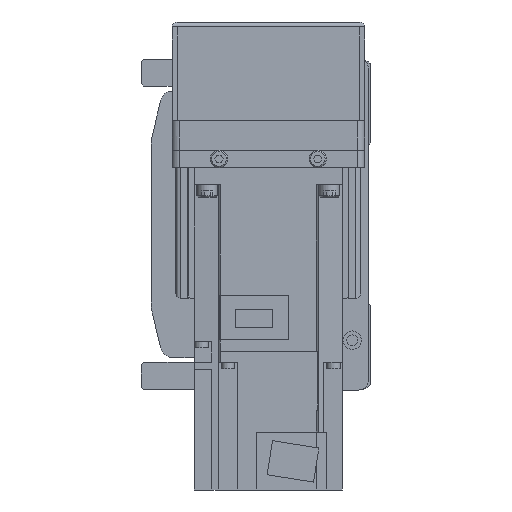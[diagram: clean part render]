
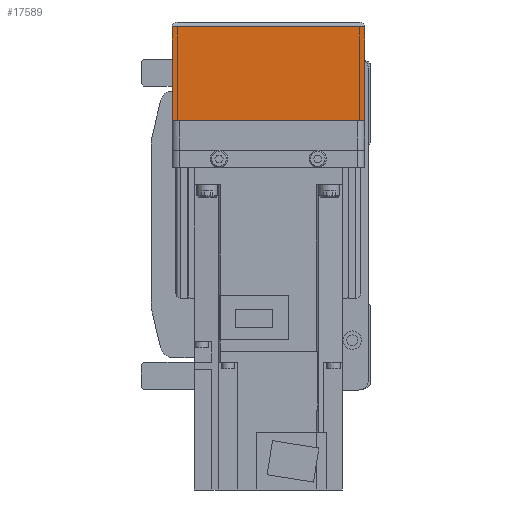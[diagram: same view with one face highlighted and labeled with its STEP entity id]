
A CAD part, left-side view. The second image highlights one B-rep face of the part: STEP entity #17589.
In plain terms, the highlighted planar face has unit normal (-1, 0, 0).
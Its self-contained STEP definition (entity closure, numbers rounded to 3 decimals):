
#2630=ORIENTED_EDGE('',*,*,#7083,.F.);
#2631=ORIENTED_EDGE('',*,*,#7084,.F.);
#2632=ORIENTED_EDGE('',*,*,#7085,.T.);
#2633=ORIENTED_EDGE('',*,*,#7086,.F.);
#7083=EDGE_CURVE('',#9408,#9399,#11225,.T.);
#7084=EDGE_CURVE('',#9425,#9408,#11226,.T.);
#7085=EDGE_CURVE('',#9425,#9426,#11227,.T.);
#7086=EDGE_CURVE('',#9399,#9426,#11228,.T.);
#9399=VERTEX_POINT('',#27014);
#9408=VERTEX_POINT('',#27032);
#9425=VERTEX_POINT('',#27080);
#9426=VERTEX_POINT('',#27082);
#11225=LINE('',#27078,#12855);
#11226=LINE('',#27079,#12856);
#11227=LINE('',#27081,#12857);
#11228=LINE('',#27083,#12858);
#12855=VECTOR('',#21673,1000.);
#12856=VECTOR('',#21674,1000.);
#12857=VECTOR('',#21675,1000.);
#12858=VECTOR('',#21676,1000.);
#14317=EDGE_LOOP('',(#2630,#2631,#2632,#2633));
#15667=FACE_BOUND('',#14317,.T.);
#16858=PLANE('',#18847);
#17589=ADVANCED_FACE('',(#15667),#16858,.F.);
#18847=AXIS2_PLACEMENT_3D('',#27077,#21671,#21672);
#21671=DIRECTION('',(1.,0.,0.));
#21672=DIRECTION('',(0.,0.,-1.));
#21673=DIRECTION('',(0.,-1.,0.));
#21674=DIRECTION('',(0.,0.,1.));
#21675=DIRECTION('',(0.,-1.,0.));
#21676=DIRECTION('',(0.,0.,-1.));
#27014=CARTESIAN_POINT('',(-158.,-39.,-12.1));
#27032=CARTESIAN_POINT('',(-158.,39.,-12.1));
#27077=CARTESIAN_POINT('',(-158.,36.,7.));
#27078=CARTESIAN_POINT('',(-158.,50.,-12.1));
#27079=CARTESIAN_POINT('',(-158.,39.,-50.));
#27080=CARTESIAN_POINT('',(-158.,39.,-50.));
#27081=CARTESIAN_POINT('',(-158.,40.,-50.));
#27082=CARTESIAN_POINT('',(-158.,-39.,-50.));
#27083=CARTESIAN_POINT('',(-158.,-39.,-12.1));
